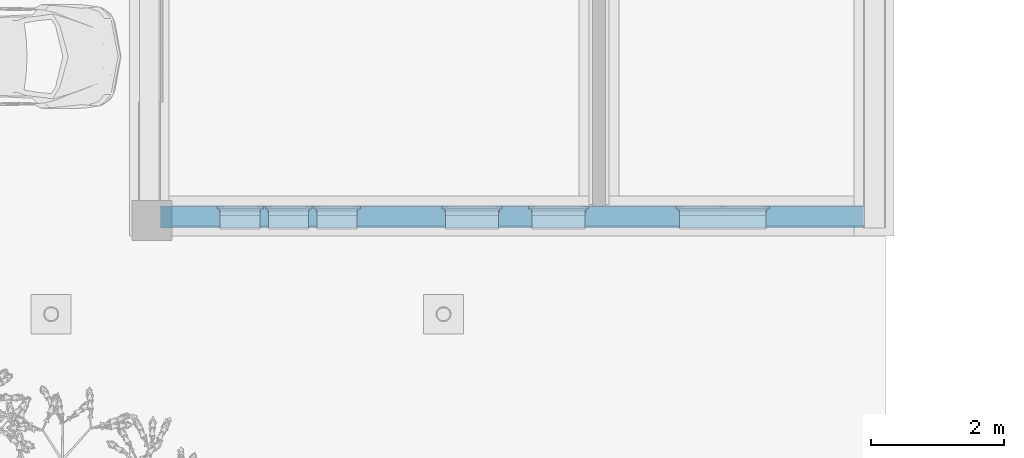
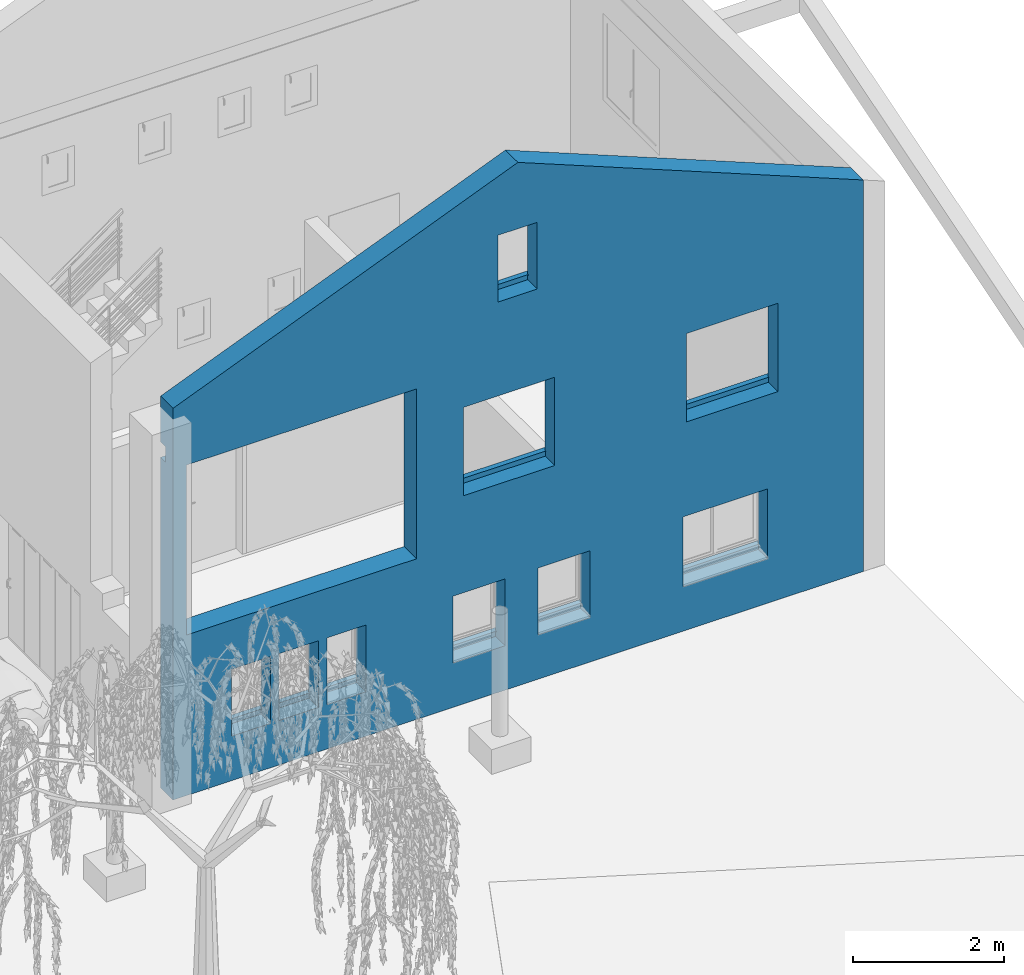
# One storey, part 10 of 20: 1 wall.
"""IFC2X3 building model written with IfcOpenShell, lengths in metres."""

from ifc_helpers import new_model, entity, si_unit, converted_unit, derived_unit, direction, frame, origin, place, context, subcontext, project, spatial, faceted_brep, material, layer, layer_set, type_object, element, save


model = new_model("IFC2X3")

# Units and contexts
model_context = context("Model", 3, precision=1e-05, world=origin(), true_north=direction((6.12303176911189e-17, 1.0)))
body_context = subcontext(model_context, "Body", "Model", "MODEL_VIEW")
ifc_project = project(units=[si_unit("LENGTHUNIT", "METRE"), si_unit("AREAUNIT", "SQUARE_METRE"), si_unit("VOLUMEUNIT", "CUBIC_METRE"), converted_unit("PLANEANGLEUNIT", "DEGREE", entity("IfcRatioMeasure", 0.0174532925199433), si_unit("PLANEANGLEUNIT", "RADIAN"), dimensions=[0, 0, 0, 0, 0, 0, 0]), si_unit("MASSUNIT", "GRAM", prefix="KILO"), derived_unit("MASSDENSITYUNIT", [(si_unit("MASSUNIT", "GRAM", prefix="KILO"), 1), (si_unit("LENGTHUNIT", "METRE"), -3)]), derived_unit("MOMENTOFINERTIAUNIT", [(si_unit("LENGTHUNIT", "METRE"), 4)]), si_unit("TIMEUNIT", "SECOND"), si_unit("FREQUENCYUNIT", "HERTZ"), si_unit("THERMODYNAMICTEMPERATUREUNIT", "DEGREE_CELSIUS"), derived_unit("THERMALTRANSMITTANCEUNIT", [(si_unit("MASSUNIT", "GRAM", prefix="KILO"), 1), (si_unit("THERMODYNAMICTEMPERATUREUNIT", "KELVIN"), -1), (si_unit("TIMEUNIT", "SECOND"), -3)]), derived_unit("VOLUMETRICFLOWRATEUNIT", [(si_unit("LENGTHUNIT", "METRE"), 3), (si_unit("TIMEUNIT", "SECOND"), -1)]), si_unit("ELECTRICCURRENTUNIT", "AMPERE"), si_unit("ELECTRICVOLTAGEUNIT", "VOLT"), si_unit("POWERUNIT", "WATT"), si_unit("FORCEUNIT", "NEWTON", prefix="KILO"), si_unit("ILLUMINANCEUNIT", "LUX"), si_unit("LUMINOUSFLUXUNIT", "LUMEN"), si_unit("LUMINOUSINTENSITYUNIT", "CANDELA"), derived_unit("USERDEFINED", [(si_unit("MASSUNIT", "GRAM", prefix="KILO"), -1), (si_unit("LENGTHUNIT", "METRE"), -2), (si_unit("TIMEUNIT", "SECOND"), 3), (si_unit("LUMINOUSFLUXUNIT", "LUMEN"), 1)]), derived_unit("LINEARVELOCITYUNIT", [(si_unit("LENGTHUNIT", "METRE"), 1), (si_unit("TIMEUNIT", "SECOND"), -1)]), si_unit("PRESSUREUNIT", "PASCAL"), derived_unit("USERDEFINED", [(si_unit("LENGTHUNIT", "METRE"), -2), (si_unit("MASSUNIT", "GRAM", prefix="KILO"), 1), (si_unit("TIMEUNIT", "SECOND"), -2)]), derived_unit("LINEARFORCEUNIT", [(si_unit("MASSUNIT", "GRAM", prefix="KILO"), 1), (si_unit("LENGTHUNIT", "METRE"), 1), (si_unit("TIMEUNIT", "SECOND"), -2), (si_unit("LENGTHUNIT", "METRE"), -1)]), derived_unit("PLANARFORCEUNIT", [(si_unit("MASSUNIT", "GRAM", prefix="KILO"), 1), (si_unit("LENGTHUNIT", "METRE"), 1), (si_unit("TIMEUNIT", "SECOND"), -2), (si_unit("LENGTHUNIT", "METRE"), -2)])], contexts=[model_context])

# Site, building, storey
site_placement = place(None, origin())
site = spatial("IfcSite", under=ifc_project, at=site_placement, Name="Surface", CompositionType="ELEMENT")
building_placement = place(site_placement, origin())
building = spatial("IfcBuilding", under=site, at=building_placement, CompositionType="ELEMENT")
storey_placement = place(building_placement, origin())
storey = spatial("IfcBuildingStorey", under=building, at=storey_placement, Name="Niveau rdc", CompositionType="ELEMENT", Elevation=-1.94916083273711e-14)

# Wall
ifc_material_1 = material(Name="Maçonnerie - Isolant")
ifc_layer_1 = layer(ifc_material_1, 0.015)
ifc_material_2 = material(Name="Blocs briques monomur")
ifc_layer_2 = layer(ifc_material_2, 0.3)
ifc_layer_3 = layer(ifc_material_1, 0.015)
ifc_layer_set = layer_set([ifc_layer_1, ifc_layer_2, ifc_layer_3], Name="Mur de base:bloc monomur30")
wall_type = type_object("IfcWallType", Name="Mur de base:bloc monomur30", PredefinedType="STANDARD", material=ifc_layer_set)
wall_placement = place(storey_placement, frame((12.4543960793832, -0.59074189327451, 0.0), z_axis=(0.0, 0.0, 1.0), x_axis=(-1.0, 0.0, 0.0)))
element("IfcWall", 1, at=wall_placement, inside=storey, type_object=wall_type, Name="Mur de base:bloc monomur30", ObjectType="Mur de base:bloc monomur30", context=body_context, shape_type="Brep", body=[
    faceted_brep([(2.76499999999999, -0.165, 0.8), (1.46499999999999, -0.165, 0.8), (1.415, -0.165, 0.8), (1.415, -0.165, 1.9), (2.81499999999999, -0.165, 1.9), (2.81499999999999, -0.165, 0.8), (4.98499999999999, -0.165, 0.8), (4.18499999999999, -0.165, 0.8), (4.13499999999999, -0.165, 0.8), (4.13499999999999, -0.165, 1.85), (5.03499999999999, -0.165, 1.85), (5.03499999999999, -0.165, 0.8), (6.28499999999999, -0.165, 0.8), (5.48499999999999, -0.165, 0.8), (5.43499999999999, -0.165, 0.8), (5.435, -0.165, 1.85), (6.33499999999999, -0.165, 1.85), (6.33499999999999, -0.165, 0.8), (8.215, -0.165, 0.8), (7.615, -0.165, 0.8), (7.565, -0.165, 0.8), (7.565, -0.165, 1.85), (8.265, -0.165, 1.85), (8.265, -0.165, 0.8), (8.945, -0.165, 0.8), (8.345, -0.165, 0.8), (8.295, -0.165, 0.8), (8.295, -0.165, 1.85), (8.995, -0.165, 1.85), (8.995, -0.165, 0.8), (9.675, -0.165, 0.8), (9.075, -0.165, 0.8), (9.025, -0.165, 0.8), (9.025, -0.165, 1.85), (9.725, -0.165, 1.85), (9.725, -0.165, 0.8), (6.17657894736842, -0.165, 3.45000000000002), (4.67657894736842, -0.165, 3.45000000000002), (4.67657894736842, -0.165, 4.85000000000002), (6.17657894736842, -0.165, 4.85000000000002), (2.76, -0.165, 3.45000000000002), (1.26, -0.165, 3.45000000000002), (1.26, -0.165, 4.85000000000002), (2.76, -0.165, 4.85000000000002), (0.0, -0.165, 0.0), (3.87742691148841, -0.165, 0.0), (4.07742691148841, -0.165, 0.0), (10.57, -0.165, 0.0), (10.57, -0.165, 5.35000000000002), (10.3669113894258, -0.165, 5.35000000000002), (10.3669113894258, -0.165, 2.60000000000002), (6.84157894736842, -0.165, 2.60000000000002), (6.84157894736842, -0.165, 2.65000000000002), (6.84157894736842, -0.165, 5.35000000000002), (6.49157894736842, -0.165, 5.35000000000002), (3.545, -0.165, 5.35000000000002), (3.475, -0.165, 5.35000000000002), (0.0, -0.165, 5.35000000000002), (10.57, 0.165, 0.0), (0.0, 0.165, 0.0), (0.0, 0.165, 6.33642179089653), (5.29, 0.165, 8.47372052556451), (10.57, 0.165, 6.34046205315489), (10.57, 0.165, 2.40000000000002), (1.465, 0.165, 1.85), (1.46499999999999, 0.165, 0.720000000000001), (2.76499999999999, 0.165, 0.720000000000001), (2.76499999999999, 0.165, 1.85), (4.18499999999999, 0.165, 1.8), (4.18499999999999, 0.165, 0.720000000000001), (4.985, 0.165, 0.720000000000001), (4.985, 0.165, 1.8), (5.485, 0.165, 1.8), (5.485, 0.165, 0.720000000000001), (6.28499999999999, 0.165, 0.720000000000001), (6.28499999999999, 0.165, 1.8), (7.615, 0.165, 1.8), (7.615, 0.165, 0.720000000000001), (8.215, 0.165, 0.720000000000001), (8.215, 0.165, 1.8), (8.345, 0.165, 1.8), (8.345, 0.165, 0.720000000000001), (8.945, 0.165, 0.720000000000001), (8.945, 0.165, 1.8), (9.075, 0.165, 1.8), (9.075, 0.165, 0.720000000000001), (9.675, 0.165, 0.720000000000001), (9.675, 0.165, 1.8), (10.3669113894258, 0.165, 2.60000000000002), (10.3669113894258, 0.165, 5.35000000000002), (6.84157894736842, 0.165, 5.35000000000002), (6.84157894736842, 0.165, 2.60000000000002), (4.72657894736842, 0.165, 4.80000000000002), (4.72657894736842, 0.165, 3.37000000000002), (6.12657894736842, 0.165, 3.37000000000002), (6.12657894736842, 0.165, 4.80000000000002), (1.31, 0.165, 4.80000000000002), (1.31, 0.165, 3.37000000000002), (2.71, 0.165, 3.37000000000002), (2.71, 0.165, 4.80000000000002), (4.995, 0.165, 7.40000000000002), (4.995, 0.165, 6.32000000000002), (5.595, 0.165, 6.32000000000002), (5.595, 0.165, 7.40000000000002), (0.0, -0.0399999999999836, 5.35000000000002), (0.0, -0.0399999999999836, 5.60000000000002), (0.0, -0.165, 5.60000000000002), (0.0, -0.165, 6.33642179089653), (10.57, -0.165, 6.34046205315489), (10.57, -0.165, 5.60000000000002), (10.57, -0.0399999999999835, 5.60000000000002), (10.57, -0.0399999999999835, 5.35000000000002), (1.46499999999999, -0.0850000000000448, 0.8), (1.46499999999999, -0.0850000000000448, 0.72), (1.46499999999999, -0.0649999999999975, 1.85), (1.46499999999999, -0.0649999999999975, 0.8), (2.76499999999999, -0.0850000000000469, 0.72), (2.76499999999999, -0.0850000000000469, 0.8), (2.76499999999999, -0.0649999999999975, 0.8), (2.76499999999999, -0.0649999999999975, 1.85), (1.45499999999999, -0.0649999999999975, 0.8), (1.45499999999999, -0.115000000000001, 0.8), (1.415, -0.115000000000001, 0.8), (2.81499999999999, -0.115000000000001, 0.8), (2.77499999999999, -0.115000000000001, 0.8), (2.77499999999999, -0.0649999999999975, 0.8), (1.415, -0.115000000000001, 1.9), (2.81499999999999, -0.115000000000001, 1.9), (1.45499999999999, -0.115000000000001, 1.86), (2.77499999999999, -0.115000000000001, 1.86), (1.45499999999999, -0.0649999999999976, 1.86), (2.77499999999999, -0.0649999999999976, 1.86), (4.18499999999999, -0.0850000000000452, 0.8), (4.18499999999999, -0.0850000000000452, 0.720000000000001), (4.18499999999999, -0.0649999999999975, 1.8), (4.18499999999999, -0.0649999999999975, 0.8), (4.98499999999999, -0.0850000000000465, 0.720000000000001), (4.98499999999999, -0.0850000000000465, 0.8), (4.98499999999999, -0.0649999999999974, 0.8), (4.98499999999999, -0.0649999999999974, 1.8), (4.17499999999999, -0.0649999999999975, 0.8), (4.17499999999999, -0.115000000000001, 0.8), (4.13499999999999, -0.115000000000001, 0.8), (5.03499999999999, -0.115000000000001, 0.8), (4.99499999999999, -0.115000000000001, 0.8), (4.99499999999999, -0.0649999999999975, 0.8), (4.13499999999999, -0.115000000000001, 1.85), (5.03499999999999, -0.115000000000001, 1.85), (4.17499999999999, -0.115000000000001, 1.81), (4.99499999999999, -0.115000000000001, 1.81), (4.17499999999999, -0.0649999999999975, 1.81), (4.99499999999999, -0.0649999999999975, 1.81), (5.48499999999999, -0.0850000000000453, 0.8), (5.48499999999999, -0.0850000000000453, 0.720000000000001), (5.48499999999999, -0.0649999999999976, 1.8), (5.48499999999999, -0.0649999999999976, 0.8), (6.28499999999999, -0.0850000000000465, 0.720000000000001), (6.28499999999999, -0.0850000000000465, 0.8), (6.28499999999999, -0.0649999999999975, 0.8), (6.28499999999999, -0.0649999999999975, 1.8), (5.47499999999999, -0.0649999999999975, 0.8), (5.47499999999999, -0.115000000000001, 0.8), (5.43499999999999, -0.115000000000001, 0.8), (6.33499999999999, -0.115000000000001, 0.8), (6.29499999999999, -0.115000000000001, 0.8), (6.29499999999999, -0.0649999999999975, 0.8), (5.43499999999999, -0.115000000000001, 1.85), (6.33499999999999, -0.115000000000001, 1.85), (5.475, -0.115000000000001, 1.81), (6.295, -0.115000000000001, 1.81), (5.47499999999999, -0.0649999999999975, 1.81), (6.29499999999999, -0.0649999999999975, 1.81), (7.615, -0.0850000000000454, 0.8), (7.615, -0.0850000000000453, 0.720000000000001), (7.615, -0.0649999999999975, 1.8), (7.615, -0.0649999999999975, 0.8), (8.215, -0.0850000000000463, 0.720000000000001), (8.215, -0.0850000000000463, 0.8), (8.215, -0.0649999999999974, 0.8), (8.215, -0.0649999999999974, 1.8), (7.605, -0.0649999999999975, 0.8), (7.605, -0.115000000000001, 0.8), (7.565, -0.115000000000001, 0.8), (8.265, -0.115000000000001, 0.8), (8.225, -0.115000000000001, 0.8), (8.225, -0.0649999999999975, 0.8), (7.565, -0.115000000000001, 1.85), (8.265, -0.115000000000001, 1.85), (7.605, -0.115000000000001, 1.81), (8.225, -0.115000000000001, 1.81), (7.605, -0.0649999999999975, 1.81), (8.225, -0.0649999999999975, 1.81), (8.345, -0.0850000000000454, 0.8), (8.345, -0.0850000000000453, 0.720000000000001), (8.345, -0.0649999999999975, 1.8), (8.345, -0.0649999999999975, 0.8), (8.945, -0.0850000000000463, 0.720000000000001), (8.945, -0.0850000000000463, 0.8), (8.945, -0.0649999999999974, 0.8), (8.945, -0.0649999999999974, 1.8), (8.335, -0.0649999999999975, 0.8), (8.335, -0.115000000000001, 0.8), (8.295, -0.115000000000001, 0.8), (8.995, -0.115000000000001, 0.8), (8.955, -0.115000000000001, 0.8), (8.955, -0.0649999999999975, 0.8), (8.295, -0.115000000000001, 1.85), (8.995, -0.115000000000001, 1.85), (8.335, -0.115000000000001, 1.81), (8.955, -0.115000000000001, 1.81), (8.335, -0.0649999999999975, 1.81), (8.955, -0.0649999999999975, 1.81), (9.075, -0.0850000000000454, 0.8), (9.075, -0.0850000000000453, 0.720000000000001), (9.075, -0.0649999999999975, 1.8), (9.075, -0.0649999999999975, 0.8), (9.675, -0.0850000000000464, 0.720000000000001), (9.675, -0.0850000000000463, 0.8), (9.675, -0.0649999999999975, 0.8), (9.675, -0.0649999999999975, 1.8), (9.065, -0.0649999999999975, 0.8), (9.065, -0.115000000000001, 0.8), (9.025, -0.115000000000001, 0.8), (9.725, -0.115000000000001, 0.8), (9.685, -0.115000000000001, 0.8), (9.685, -0.0649999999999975, 0.8), (9.025, -0.115000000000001, 1.85), (9.725, -0.115000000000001, 1.85), (9.065, -0.115000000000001, 1.81), (9.685, -0.115000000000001, 1.81), (9.065, -0.0649999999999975, 1.81), (9.685, -0.0649999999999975, 1.81), (5.29, -0.164999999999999, 8.47372052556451), (10.3669113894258, -0.0399999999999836, 5.35000000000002), (6.84157894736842, -0.0399999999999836, 5.35000000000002), (4.72657894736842, -0.0850000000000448, 3.45000000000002), (4.72657894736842, -0.0850000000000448, 3.37000000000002), (4.72657894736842, -0.0649999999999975, 4.80000000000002), (4.72657894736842, -0.0649999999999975, 3.45000000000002), (6.12657894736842, -0.0850000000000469, 3.37000000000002), (6.12657894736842, -0.085000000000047, 3.45000000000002), (6.12657894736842, -0.0649999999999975, 3.45000000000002), (6.12657894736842, -0.0649999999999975, 4.80000000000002), (4.71657894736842, -0.0649999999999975, 3.45000000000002), (4.71657894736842, -0.115000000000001, 3.45000000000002), (4.67657894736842, -0.115000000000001, 3.45000000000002), (6.17657894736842, -0.115000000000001, 3.45000000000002), (6.13657894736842, -0.115000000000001, 3.45000000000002), (6.13657894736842, -0.0649999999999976, 3.45000000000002), (4.67657894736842, -0.115000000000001, 4.85000000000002), (4.71657894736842, -0.115000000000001, 4.81000000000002), (6.13657894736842, -0.115000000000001, 4.81000000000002), (6.17657894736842, -0.115000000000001, 4.85000000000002), (4.71657894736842, -0.0649999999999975, 4.81000000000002), (6.13657894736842, -0.0649999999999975, 4.81000000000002), (1.31, -0.0850000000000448, 3.45000000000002), (1.31, -0.0850000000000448, 3.37000000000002), (1.31, -0.0649999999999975, 4.80000000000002), (1.31, -0.0649999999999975, 3.45000000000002), (2.71, -0.0850000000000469, 3.37000000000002), (2.71, -0.085000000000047, 3.45000000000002), (2.71, -0.0649999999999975, 3.45000000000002), (2.71, -0.0649999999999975, 4.80000000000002), (1.3, -0.0649999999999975, 3.45000000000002), (1.3, -0.115000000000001, 3.45000000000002), (1.26, -0.115000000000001, 3.45000000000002), (2.76, -0.115000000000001, 3.45000000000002), (2.72, -0.115000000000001, 3.45000000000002), (2.72, -0.0649999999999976, 3.45000000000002), (1.26, -0.115000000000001, 4.85000000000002), (1.3, -0.115000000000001, 4.81000000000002), (2.72, -0.115000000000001, 4.81000000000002), (2.76, -0.115000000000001, 4.85000000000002), (1.3, -0.0649999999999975, 4.81000000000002), (2.72, -0.0649999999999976, 4.81000000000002), (4.995, -0.0850000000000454, 6.40000000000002), (4.995, -0.0850000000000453, 6.32000000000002), (4.995, -0.0649999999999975, 7.40000000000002), (4.995, -0.0649999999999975, 6.40000000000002), (5.595, -0.0850000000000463, 6.32000000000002), (5.595, -0.0850000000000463, 6.40000000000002), (5.595, -0.0649999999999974, 6.40000000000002), (5.595, -0.0649999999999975, 7.40000000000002), (4.985, -0.0649999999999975, 6.40000000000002), (4.985, -0.115000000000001, 6.40000000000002), (4.945, -0.115000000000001, 6.40000000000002), (4.945, -0.165, 6.40000000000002), (5.645, -0.165, 6.40000000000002), (5.645, -0.115000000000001, 6.40000000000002), (5.605, -0.115000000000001, 6.40000000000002), (5.605, -0.0649999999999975, 6.40000000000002), (4.945, -0.115000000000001, 7.45000000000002), (4.945, -0.165, 7.45000000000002), (4.985, -0.115000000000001, 7.41000000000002), (5.605, -0.115000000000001, 7.41000000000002), (5.645, -0.115000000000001, 7.45000000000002), (4.985, -0.0649999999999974, 7.41000000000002), (5.605, -0.0649999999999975, 7.41000000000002), (5.645, -0.165, 7.45000000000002)], [[[0, 1, 2, 3, 4, 5], [6, 7, 8, 9, 10, 11], [12, 13, 14, 15, 16, 17], [18, 19, 20, 21, 22, 23], [24, 25, 26, 27, 28, 29], [30, 31, 32, 33, 34, 35], [36, 37, 38, 39], [40, 41, 42, 43], [44, 45, 46, 47, 48, 49, 50, 51, 52, 53, 54, 55, 56, 57]], [[58, 59, 60, 61, 62, 63], [64, 65, 66, 67], [68, 69, 70, 71], [72, 73, 74, 75], [76, 77, 78, 79], [80, 81, 82, 83], [84, 85, 86, 87], [88, 89, 90, 91], [92, 93, 94, 95], [96, 97, 98, 99], [100, 101, 102, 103]], [[60, 59, 44, 57, 104, 105, 106, 107]], [[58, 63, 62, 108, 109, 110, 111, 48, 47]], [[112, 113, 65, 64, 114, 115]], [[116, 117, 118, 119, 67, 66]], [[112, 115, 120, 121, 122, 2, 1, 0, 5, 123, 124, 125, 118, 117]], [[119, 114, 64, 67]], [[113, 116, 66, 65]], [[113, 112, 117, 116]], [[2, 122, 126, 3]], [[124, 123, 127, 126, 122, 121, 128, 129]], [[121, 120, 130, 128]], [[115, 114, 119, 118, 125, 131, 130, 120]], [[3, 126, 127, 4]], [[129, 128, 130, 131]], [[123, 5, 4, 127]], [[125, 124, 129, 131]], [[132, 133, 69, 68, 134, 135]], [[136, 137, 138, 139, 71, 70]], [[132, 135, 140, 141, 142, 8, 7, 6, 11, 143, 144, 145, 138, 137]], [[139, 134, 68, 71]], [[133, 136, 70, 69]], [[133, 132, 137, 136]], [[8, 142, 146, 9]], [[144, 143, 147, 146, 142, 141, 148, 149]], [[141, 140, 150, 148]], [[135, 134, 139, 138, 145, 151, 150, 140]], [[9, 146, 147, 10]], [[149, 148, 150, 151]], [[143, 11, 10, 147]], [[145, 144, 149, 151]], [[152, 153, 73, 72, 154, 155]], [[156, 157, 158, 159, 75, 74]], [[152, 155, 160, 161, 162, 14, 13, 12, 17, 163, 164, 165, 158, 157]], [[159, 154, 72, 75]], [[153, 156, 74, 73]], [[153, 152, 157, 156]], [[14, 162, 166, 15]], [[164, 163, 167, 166, 162, 161, 168, 169]], [[161, 160, 170, 168]], [[155, 154, 159, 158, 165, 171, 170, 160]], [[15, 166, 167, 16]], [[169, 168, 170, 171]], [[163, 17, 16, 167]], [[165, 164, 169, 171]], [[172, 173, 77, 76, 174, 175]], [[176, 177, 178, 179, 79, 78]], [[172, 175, 180, 181, 182, 20, 19, 18, 23, 183, 184, 185, 178, 177]], [[179, 174, 76, 79]], [[173, 176, 78, 77]], [[173, 172, 177, 176]], [[20, 182, 186, 21]], [[184, 183, 187, 186, 182, 181, 188, 189]], [[181, 180, 190, 188]], [[175, 174, 179, 178, 185, 191, 190, 180]], [[21, 186, 187, 22]], [[189, 188, 190, 191]], [[183, 23, 22, 187]], [[185, 184, 189, 191]], [[192, 193, 81, 80, 194, 195]], [[196, 197, 198, 199, 83, 82]], [[192, 195, 200, 201, 202, 26, 25, 24, 29, 203, 204, 205, 198, 197]], [[199, 194, 80, 83]], [[193, 196, 82, 81]], [[193, 192, 197, 196]], [[26, 202, 206, 27]], [[204, 203, 207, 206, 202, 201, 208, 209]], [[201, 200, 210, 208]], [[195, 194, 199, 198, 205, 211, 210, 200]], [[27, 206, 207, 28]], [[209, 208, 210, 211]], [[203, 29, 28, 207]], [[205, 204, 209, 211]], [[212, 213, 85, 84, 214, 215]], [[216, 217, 218, 219, 87, 86]], [[212, 215, 220, 221, 222, 32, 31, 30, 35, 223, 224, 225, 218, 217]], [[219, 214, 84, 87]], [[213, 216, 86, 85]], [[213, 212, 217, 216]], [[32, 222, 226, 33]], [[224, 223, 227, 226, 222, 221, 228, 229]], [[221, 220, 230, 228]], [[215, 214, 219, 218, 225, 231, 230, 220]], [[33, 226, 227, 34]], [[229, 228, 230, 231]], [[223, 35, 34, 227]], [[225, 224, 229, 231]], [[107, 232, 61, 60]], [[232, 108, 62, 61]], [[47, 46, 45, 44, 59, 58]], [[50, 49, 233, 89, 88]], [[51, 50, 88, 91]], [[90, 89, 233, 234]], [[53, 52, 51, 91, 90, 234]], [[235, 236, 93, 92, 237, 238]], [[239, 240, 241, 242, 95, 94]], [[93, 236, 239, 94]], [[236, 235, 240, 239]], [[237, 92, 95, 242]], [[235, 238, 243, 244, 245, 37, 36, 246, 247, 248, 241, 240]], [[37, 245, 249, 38]], [[245, 244, 250, 251, 247, 246, 252, 249]], [[244, 243, 253, 250]], [[238, 237, 242, 241, 248, 254, 253, 243]], [[38, 249, 252, 39]], [[251, 250, 253, 254]], [[246, 36, 39, 252]], [[248, 247, 251, 254]], [[255, 256, 97, 96, 257, 258]], [[259, 260, 261, 262, 99, 98]], [[97, 256, 259, 98]], [[256, 255, 260, 259]], [[257, 96, 99, 262]], [[255, 258, 263, 264, 265, 41, 40, 266, 267, 268, 261, 260]], [[41, 265, 269, 42]], [[265, 264, 270, 271, 267, 266, 272, 269]], [[264, 263, 273, 270]], [[258, 257, 262, 261, 268, 274, 273, 263]], [[42, 269, 272, 43]], [[271, 270, 273, 274]], [[266, 40, 43, 272]], [[268, 267, 271, 274]], [[275, 276, 101, 100, 277, 278]], [[279, 280, 281, 282, 103, 102]], [[101, 276, 279, 102]], [[276, 275, 280, 279]], [[277, 100, 103, 282]], [[275, 278, 283, 284, 285, 286, 287, 288, 289, 290, 281, 280]], [[286, 285, 291, 292]], [[285, 284, 293, 294, 289, 288, 295, 291]], [[284, 283, 296, 293]], [[278, 277, 282, 281, 290, 297, 296, 283]], [[292, 291, 295, 298]], [[294, 293, 296, 297]], [[288, 287, 298, 295]], [[290, 289, 294, 297]], [[234, 104, 57, 56, 55, 54, 53]], [[105, 110, 109, 106]], [[104, 234, 233, 111, 110, 105]], [[111, 233, 49, 48]], [[108, 232, 107, 106, 109], [287, 286, 292, 298]]], outer=[[False, False, False, False, False, False, False, False, True], [True, False, False, False, False, False, False, False, False, False, False], [True], [True], [True], [True], [True], [True], [True], [True], [True], [True], [True], [True], [True], [True], [True], [True], [True], [True], [True], [True], [True], [True], [True], [True], [True], [True], [True], [True], [True], [True], [True], [True], [True], [True], [True], [True], [True], [True], [True], [True], [True], [True], [True], [True], [True], [True], [True], [True], [True], [True], [True], [True], [True], [True], [True], [True], [True], [True], [True], [True], [True], [True], [True], [True], [True], [True], [True], [True], [True], [True], [True], [True], [True], [True], [True], [True], [True], [True], [True], [True], [True], [True], [True], [True], [True], [True], [True], [True], [True], [True], [True], [True], [True], [True], [True], [True], [True], [True], [True], [True], [True], [True], [True], [True], [True], [True], [True], [True], [True], [True], [True], [True], [True], [True], [True], [True], [True], [True], [True], [True], [True], [True], [True], [True], [True], [True], [True], [True], [True], [True], [True], [True], [True], [True], [True], [True], [True], [True], [True], [True, False]]),
])

save(model, "model.ifc")
